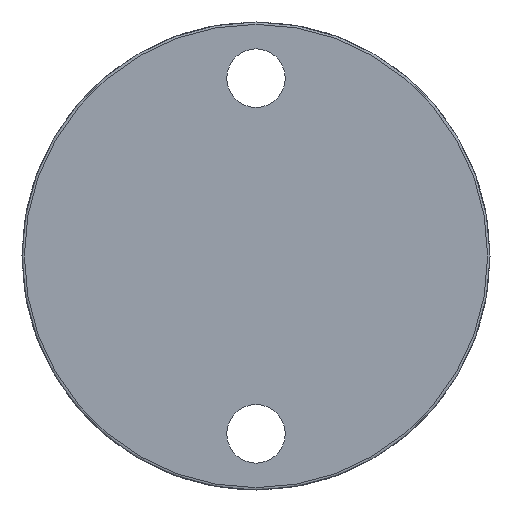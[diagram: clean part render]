
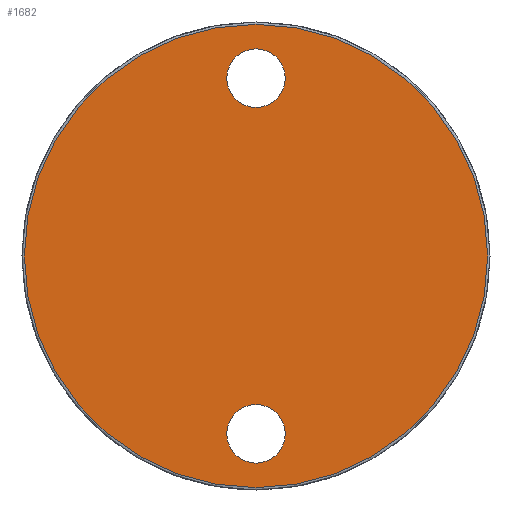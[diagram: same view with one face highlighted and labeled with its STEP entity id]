
A CAD part, left-side view. The second image highlights one B-rep face of the part: STEP entity #1682.
In plain terms, the highlighted planar face has unit normal (-1, 0, 0).
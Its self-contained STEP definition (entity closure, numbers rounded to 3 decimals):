
#830=CARTESIAN_POINT('',(-523.004,-488.109,-49.362));
#831=VERTEX_POINT('',#830);
#858=CARTESIAN_POINT('',(-523.004,-488.109,49.638));
#859=VERTEX_POINT('',#858);
#860=CARTESIAN_POINT('',(-523.004,-488.109,0.138));
#861=DIRECTION('',(-1.0,0.0,0.0));
#862=DIRECTION('',(0.0,0.0,-1.0));
#863=AXIS2_PLACEMENT_3D('',#860,#861,#862);
#864=CIRCLE('',#863,49.5);
#865=EDGE_CURVE('',#859,#831,#864,.T.);
#867=CARTESIAN_POINT('',(-523.004,-488.109,0.138));
#868=DIRECTION('',(-1.0,0.0,0.0));
#869=DIRECTION('',(0.0,0.0,-1.0));
#870=AXIS2_PLACEMENT_3D('',#867,#868,#869);
#871=CIRCLE('',#870,49.5);
#872=EDGE_CURVE('',#831,#859,#871,.T.);
#1633=CARTESIAN_POINT('',(-523.004,-537.611,-49.363));
#1634=DIRECTION('',(1.0,0.0,0.0));
#1635=DIRECTION('',(0.0,1.0,0.0));
#1636=AXIS2_PLACEMENT_3D('',#1633,#1634,#1635);
#1637=PLANE('',#1636);
#1638=ORIENTED_EDGE('',*,*,#872,.T.);
#1639=ORIENTED_EDGE('',*,*,#865,.T.);
#1640=EDGE_LOOP('',(#1638,#1639));
#1641=FACE_OUTER_BOUND('',#1640,.T.);
#1642=CARTESIAN_POINT('',(-523.004,-494.359,38.138));
#1643=VERTEX_POINT('',#1642);
#1644=CARTESIAN_POINT('',(-523.004,-481.859,38.138));
#1645=VERTEX_POINT('',#1644);
#1646=CARTESIAN_POINT('',(-523.004,-488.109,38.138));
#1647=DIRECTION('',(1.0,0.0,0.0));
#1648=DIRECTION('',(0.0,-1.0,0.0));
#1649=AXIS2_PLACEMENT_3D('',#1646,#1647,#1648);
#1650=CIRCLE('',#1649,6.25);
#1651=EDGE_CURVE('',#1643,#1645,#1650,.T.);
#1652=ORIENTED_EDGE('',*,*,#1651,.T.);
#1653=CARTESIAN_POINT('',(-523.004,-488.109,38.138));
#1654=DIRECTION('',(1.0,0.0,0.0));
#1655=DIRECTION('',(0.0,-1.0,0.0));
#1656=AXIS2_PLACEMENT_3D('',#1653,#1654,#1655);
#1657=CIRCLE('',#1656,6.25);
#1658=EDGE_CURVE('',#1645,#1643,#1657,.T.);
#1659=ORIENTED_EDGE('',*,*,#1658,.T.);
#1660=EDGE_LOOP('',(#1652,#1659));
#1661=FACE_BOUND('',#1660,.T.);
#1662=CARTESIAN_POINT('',(-523.004,-494.359,-37.862));
#1663=VERTEX_POINT('',#1662);
#1664=CARTESIAN_POINT('',(-523.004,-481.859,-37.862));
#1665=VERTEX_POINT('',#1664);
#1666=CARTESIAN_POINT('',(-523.004,-488.109,-37.862));
#1667=DIRECTION('',(1.0,0.0,0.0));
#1668=DIRECTION('',(0.0,-1.0,0.0));
#1669=AXIS2_PLACEMENT_3D('',#1666,#1667,#1668);
#1670=CIRCLE('',#1669,6.25);
#1671=EDGE_CURVE('',#1663,#1665,#1670,.T.);
#1672=ORIENTED_EDGE('',*,*,#1671,.T.);
#1673=CARTESIAN_POINT('',(-523.004,-488.109,-37.862));
#1674=DIRECTION('',(1.0,0.0,0.0));
#1675=DIRECTION('',(0.0,-1.0,0.0));
#1676=AXIS2_PLACEMENT_3D('',#1673,#1674,#1675);
#1677=CIRCLE('',#1676,6.25);
#1678=EDGE_CURVE('',#1665,#1663,#1677,.T.);
#1679=ORIENTED_EDGE('',*,*,#1678,.T.);
#1680=EDGE_LOOP('',(#1672,#1679));
#1681=FACE_BOUND('',#1680,.T.);
#1682=ADVANCED_FACE('',(#1641,#1661,#1681),#1637,.F.);
